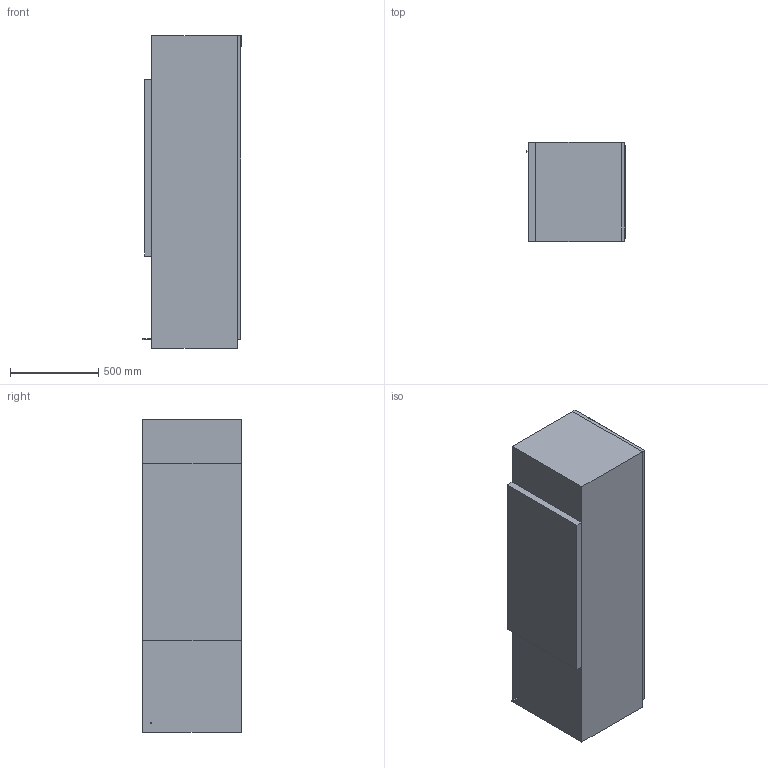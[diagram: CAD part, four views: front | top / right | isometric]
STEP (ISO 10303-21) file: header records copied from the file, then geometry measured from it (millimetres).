
FILE_DESCRIPTION(/* description */ (''),/* implementation_level */ '2;1');
FILE_NAME(/* name */ 'K37682iDF',/* time_stamp */ '2013-03-12T18:25:44+01:00',/* author */ (''),/* organization */ (''),/* preprocessor_version */ 'ST-DEVELOPER v10',/* originating_system */ '',/* authorisation */ '');
FILE_SCHEMA (('AUTOMOTIVE_DESIGN_CC2'));
Length unit declared in the file: millimetre
Products named in the file (1): 1
Bounding box: 555.03 x 559 x 1770 mm (x, y, z)
Volume: 520500962.3 mm3; surface area: 7542292.1 mm2
Topology: 5 solids, 5 shells, 40 faces, 92 edges, 58 vertices
Faces by surface type: bspline 40
Entity records: 1317 total; most frequent: CARTESIAN_POINT 677, ORIENTED_EDGE 176, EDGE_CURVE 88, B_SPLINE_CURVE_WITH_KNOTS 88, VERTEX_POINT 58, ADVANCED_FACE 40, FACE_OUTER_BOUND 40, EDGE_LOOP 40
